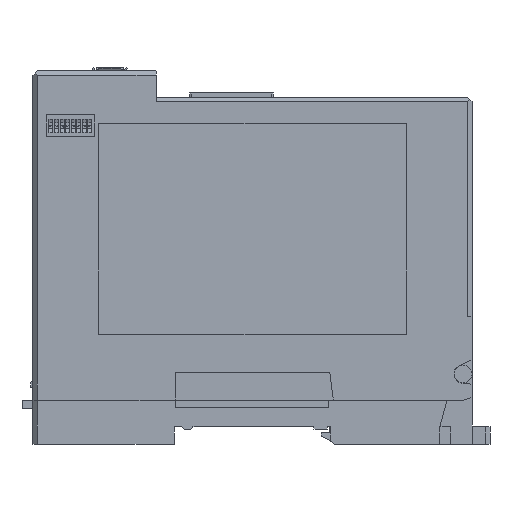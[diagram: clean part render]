
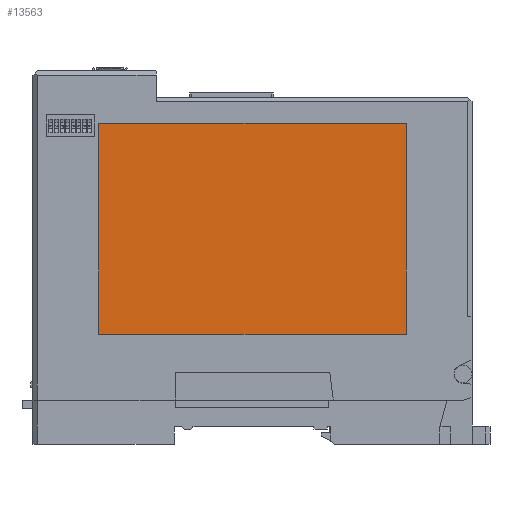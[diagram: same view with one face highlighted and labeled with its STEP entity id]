
A CAD part, left-side view. The second image highlights one B-rep face of the part: STEP entity #13563.
In plain terms, the highlighted planar face has unit normal (-1, 0, 0).
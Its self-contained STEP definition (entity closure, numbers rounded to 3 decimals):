
#102 = VERTEX_POINT ( 'NONE', #4061 ) ;
#2396 = DIRECTION ( 'NONE',  ( 0., 0., -1. ) ) ;
#4061 = CARTESIAN_POINT ( 'NONE',  ( -14.7, -35.01, -12. ) ) ;
#4502 = CARTESIAN_POINT ( 'NONE',  ( -14.7, 0., 0. ) ) ;
#5136 = AXIS2_PLACEMENT_3D ( 'NONE', #4502, #17626, #8146 ) ;
#6047 = CARTESIAN_POINT ( 'NONE',  ( -14.7, 35., -60.01 ) ) ;
#7735 = FACE_OUTER_BOUND ( 'NONE', #31615, .T. ) ;
#7820 = CARTESIAN_POINT ( 'NONE',  ( -14.7, 35., -60.01 ) ) ;
#8146 = DIRECTION ( 'NONE',  ( 0., -1., 0. ) ) ;
#8236 = LINE ( 'NONE', #29828, #36692 ) ;
#9189 = ORIENTED_EDGE ( 'NONE', *, *, #12782, .T. ) ;
#10351 = VECTOR ( 'NONE', #35249, 1000. ) ;
#11055 = DIRECTION ( 'NONE',  ( 0., 0., 1. ) ) ;
#12782 = EDGE_CURVE ( 'NONE', #13038, #102, #8236, .T. ) ;
#12839 = EDGE_CURVE ( 'NONE', #32991, #13038, #35504, .T. ) ;
#13038 = VERTEX_POINT ( 'NONE', #37896 ) ;
#13563 = ADVANCED_FACE ( 'NONE', ( #7735 ), #32179, .T. ) ;
#14035 = ORIENTED_EDGE ( 'NONE', *, *, #12839, .T. ) ;
#14581 = EDGE_CURVE ( 'NONE', #102, #30926, #36390, .T. ) ;
#14980 = CARTESIAN_POINT ( 'NONE',  ( -14.7, 35., -12. ) ) ;
#17626 = DIRECTION ( 'NONE',  ( -1., 0., 0. ) ) ;
#18256 = CARTESIAN_POINT ( 'NONE',  ( -14.7, 35., -12. ) ) ;
#18640 = VECTOR ( 'NONE', #24189, 1000. ) ;
#19634 = VECTOR ( 'NONE', #2396, 1000. ) ;
#23678 = ORIENTED_EDGE ( 'NONE', *, *, #14581, .T. ) ;
#23811 = LINE ( 'NONE', #30070, #19634 ) ;
#24189 = DIRECTION ( 'NONE',  ( 0., -1., 0. ) ) ;
#29787 = EDGE_CURVE ( 'NONE', #30926, #32991, #23811, .T. ) ;
#29828 = CARTESIAN_POINT ( 'NONE',  ( -14.7, -35.01, -60.01 ) ) ;
#30070 = CARTESIAN_POINT ( 'NONE',  ( -14.7, 35., -60.01 ) ) ;
#30926 = VERTEX_POINT ( 'NONE', #18256 ) ;
#31615 = EDGE_LOOP ( 'NONE', ( #14035, #9189, #23678, #32160 ) ) ;
#32160 = ORIENTED_EDGE ( 'NONE', *, *, #29787, .T. ) ;
#32179 = PLANE ( 'NONE',  #5136 ) ;
#32991 = VERTEX_POINT ( 'NONE', #6047 ) ;
#35249 = DIRECTION ( 'NONE',  ( 0., 1., 0. ) ) ;
#35504 = LINE ( 'NONE', #7820, #18640 ) ;
#36390 = LINE ( 'NONE', #14980, #10351 ) ;
#36692 = VECTOR ( 'NONE', #11055, 1000. ) ;
#37896 = CARTESIAN_POINT ( 'NONE',  ( -14.7, -35.01, -60.01 ) ) ;
